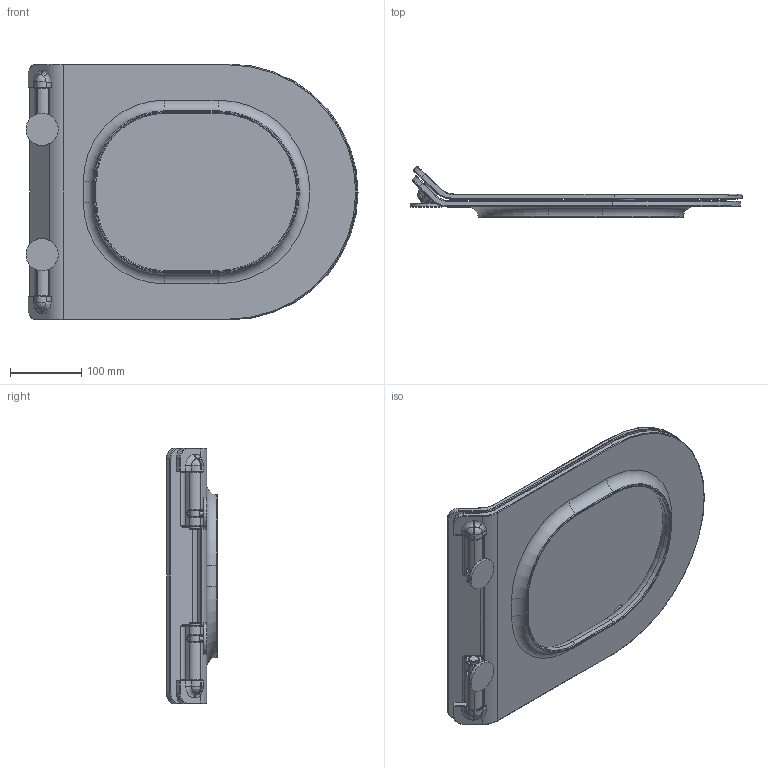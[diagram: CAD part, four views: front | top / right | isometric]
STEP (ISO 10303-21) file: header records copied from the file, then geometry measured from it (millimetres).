
FILE_DESCRIPTION((''),'2;1');
FILE_NAME('E038_ASM','2019-05-29T',('Administrator'),(''),'CREO PARAMETRIC BY PTC INC, 2016050','CREO PARAMETRIC BY PTC INC, 2016050','');
FILE_SCHEMA(('CONFIG_CONTROL_DESIGN'));
Length unit declared in the file: millimetre
Products named in the file (5): 01; 02; 03; PRT0002; E038_ASM
Assembly tree (4 placements, depth 2):
  E038_ASM
    01
    02
    03
    PRT0002
Bounding box: 464.76 x 71.33 x 358 mm (x, y, z)
Volume: 1886143.1 mm3; surface area: 558530.6 mm2
Topology: 4 solids, 4 shells, 329 faces, 752 edges, 434 vertices
Faces by surface type: cylinder 135, torus 94, plane 58, bspline 30, cone 8, sphere 4
Entity records: 11325 total; most frequent: CARTESIAN_POINT 3773, DIRECTION 1703, ORIENTED_EDGE 1504, EDGE_CURVE 752, AXIS2_PLACEMENT_3D 721, VERTEX_POINT 434, CIRCLE 413, EDGE_LOOP 342
